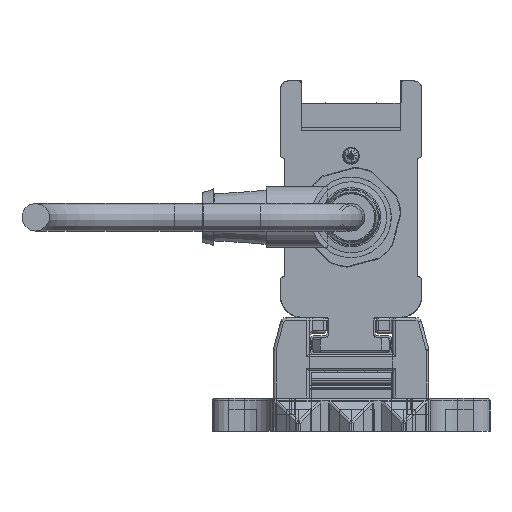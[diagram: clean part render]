
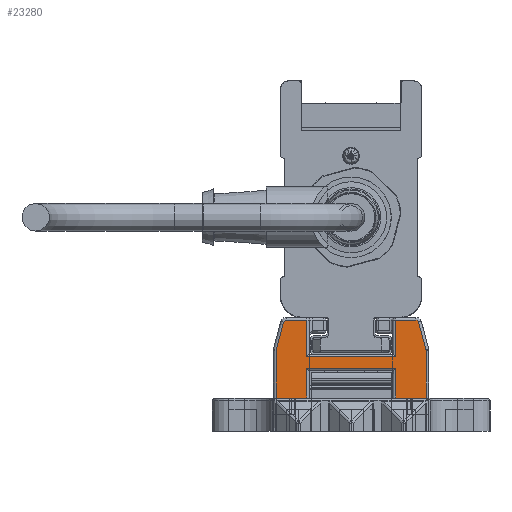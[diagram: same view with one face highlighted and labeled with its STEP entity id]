
A CAD part, left-side view. The second image highlights one B-rep face of the part: STEP entity #23280.
In plain terms, the highlighted planar face has unit normal (-1, 0, 0).
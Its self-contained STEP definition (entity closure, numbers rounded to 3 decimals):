
#23280=ADVANCED_FACE('', (#23290), #23300, .T.);
#141290=AXIS2_PLACEMENT_3D('Ax2Pl3d', #141300, #141310, #141320);
#141530=AXIS2_PLACEMENT_3D('Ax2Pl3d', #141540, #141550, #141560);
#146410=AXIS2_PLACEMENT_3D('Ax2Pl3d', #146420, #146430, #146440);
#151490=AXIS2_PLACEMENT_3D('Ax2Pl3d', #151500, #151510, #151520);
#161170=AXIS2_PLACEMENT_3D('Ax2Pl3d', #161180, #161190, #161200);
#583560=CARTESIAN_POINT('', (-747.669,-3766.345,
331.37));
#141300=CARTESIAN_POINT('HicPkt', (-747.669,-3765.379,
331.111));
#583570=CARTESIAN_POINT('', (-747.669,-3766.379,
331.111));
#583580=CARTESIAN_POINT('', (-747.669,-3765.037,
336.255));
#583600=CARTESIAN_POINT('', (-747.669,-3765.037,
336.255));
#583630=CARTESIAN_POINT('', (-747.669,-3764.554,
336.625));
#141540=CARTESIAN_POINT('HicPkt', (-747.669,-3764.554,
336.125));
#583850=CARTESIAN_POINT('', (-747.669,-3766.379,
322.625));
#583860=CARTESIAN_POINT('', (-747.669,-3760.881,
322.625));
#583870=CARTESIAN_POINT('', (-747.669,-3760.881,
322.625));
#583950=CARTESIAN_POINT('', (-747.669,-3744.881,
322.625));
#583960=CARTESIAN_POINT('', (-747.669,-3739.383,
322.625));
#583970=CARTESIAN_POINT('', (-747.669,-3739.383,
322.625));
#146420=CARTESIAN_POINT('HicPkt', (-747.669,-3741.209,
336.125));
#586440=CARTESIAN_POINT('', (-747.669,-3740.726,
336.255));
#586450=CARTESIAN_POINT('', (-747.669,-3741.209,
336.625));
#586460=CARTESIAN_POINT('', (-747.669,-3760.881,
330.025));
#586470=CARTESIAN_POINT('', (-747.669,-3744.881,
330.025));
#586480=CARTESIAN_POINT('', (-747.669,-3760.881,
330.025));
#586640=CARTESIAN_POINT('', (-747.669,-3760.881,
328.005));
#586650=CARTESIAN_POINT('', (-747.669,-3744.881,
328.005));
#586660=CARTESIAN_POINT('', (-747.669,-3744.881,
328.005));
#586670=CARTESIAN_POINT('', (-747.669,-3760.881,
328.005));
#586690=CARTESIAN_POINT('', (-747.669,-3744.881,
322.625));
#586700=CARTESIAN_POINT('', (-747.669,-3744.881,
330.025));
#586710=CARTESIAN_POINT('', (-747.669,-3744.881,
336.625));
#587560=CARTESIAN_POINT('', (-747.669,-3744.881,
336.625));
#587570=CARTESIAN_POINT('', (-747.669,-3740.726,
336.255));
#587580=CARTESIAN_POINT('', (-747.669,-3739.417,
331.37));
#587770=CARTESIAN_POINT('', (-747.669,-3739.383,
331.111));
#587780=CARTESIAN_POINT('', (-747.669,-3739.383,
331.111));
#151500=CARTESIAN_POINT('HicPkt', (-747.669,-3740.383,
331.111));
#588590=CARTESIAN_POINT('', (-747.669,-3766.379,
331.111));
#161180=CARTESIAN_POINT('HicPkt', (-747.669,-3764.554,
336.625));
#590390=CARTESIAN_POINT('', (-747.669,-3760.881,
336.625));
#590400=CARTESIAN_POINT('', (-747.669,-3760.881,
336.625));
#590410=CARTESIAN_POINT('', (-747.669,-3760.881,
336.625));
#675070=CIRCLE('Circle', #141290, 1.);
#675110=CIRCLE('Circle', #141530, 0.5);
#675690=CIRCLE('Circle', #146410, 0.5);
#676220=CIRCLE('Circle', #151490, 1.);
#141310=DIRECTION('Axis', (-1.,0.,
0.));
#141320=DIRECTION('RefDirection', (0.,
0.,-1.));
#942570=DIRECTION('', (0.,0.259,
0.966));
#141550=DIRECTION('Axis', (-1.,0.,
0.));
#141560=DIRECTION('RefDirection', (0.,
0.,-1.));
#942680=DIRECTION('', (0.,1.,0.));
#942720=DIRECTION('', (0.,1.,0.));
#146430=DIRECTION('Axis', (1.,0.,
0.));
#146440=DIRECTION('RefDirection', (0.,
0.,-1.));
#943910=DIRECTION('', (0.,-1.,0.));
#944010=DIRECTION('', (0.,1.,0.));
#944020=DIRECTION('', (0.,0.,1.));
#944040=DIRECTION('', (0.,0.,-1.));
#944050=DIRECTION('', (0.,0.,-1.));
#944480=DIRECTION('', (0.,-1.,0.));
#944490=DIRECTION('', (0.,-0.259,0.966));
#944580=DIRECTION('', (0.,0.,1.));
#151510=DIRECTION('Axis', (1.,0.,
0.));
#151520=DIRECTION('RefDirection', (0.,
0.,-1.));
#944950=DIRECTION('', (0.,0.,1.));
#161190=DIRECTION('Axis', (-1.,0.,
0.));
#161200=DIRECTION('RefDirection', (0.,
0.,-1.));
#945790=DIRECTION('', (0.,1.,0.));
#945800=DIRECTION('', (0.,0.,1.));
#1009400=EDGE_CURVE('', #1009410, #1009390, #675070, .T.);
#1009460=EDGE_CURVE('', #1009390, #1009440, #1009470, .T.);
#1009530=EDGE_CURVE('', #1009440, #1009520, #675110, .T.);
#1009980=EDGE_CURVE('', #1009970, #1009990, #1010000, .T.);
#1010140=EDGE_CURVE('', #1010130, #1010150, #1010160, .T.);
#1014500=EDGE_CURVE('', #1014510, #1014520, #675690, .T.);
#1014550=EDGE_CURVE('', #1014560, #1014570, #1014580, .T.);
#1014920=EDGE_CURVE('', #1014900, #1014930, #1014940, .T.);
#1014970=EDGE_CURVE('', #1009990, #1014900, #1014980, .T.);
#1015010=EDGE_CURVE('', #1014930, #1010130, #1015020, .T.);
#1015030=EDGE_CURVE('', #1015040, #1014560, #1015050, .T.);
#1016870=EDGE_CURVE('', #1014520, #1015040, #1016880, .T.);
#1016940=EDGE_CURVE('', #1016950, #1014510, #1016960, .T.);
#1017380=EDGE_CURVE('', #1010150, #1017390, #1017400, .T.);
#1017420=EDGE_CURVE('', #1017390, #1016950, #676220, .T.);
#1019130=EDGE_CURVE('', #1009970, #1009410, #1019140, .T.);
#1022940=EDGE_CURVE('', #1009520, #1022950, #1022960, .T.);
#1022970=EDGE_CURVE('', #1014570, #1022950, #1022980, .T.);
#1216860=EDGE_LOOP('Edge_loop', (#1216870,#1216880,#1216890,#1216900,
#1216910,#1216920,#1216930,#1216940,#1216950,#1216960,#1216970,
#1216980,#1216990,#1217000,#1217010,#1217020,#1217030,#1217040));
#23290=FACE_OUTER_BOUND('Face_outer_bound', #1216860, .T.);
#1009470=LINE('Line', #583600, #1391440);
#1010000=LINE('Line', #583860, #1391550);
#1010160=LINE('Line', #583960, #1391590);
#1014580=LINE('Line', #586460, #1392780);
#1014940=LINE('Line', #586650, #1392880);
#1014980=LINE('Line', #586670, #1392890);
#1015020=LINE('Line', #586690, #1392910);
#1015050=LINE('Line', #586700, #1392920);
#1016880=LINE('Line', #587560, #1393350);
#1016960=LINE('Line', #587570, #1393360);
#1017400=LINE('Line', #587770, #1393450);
#1019140=LINE('Line', #588590, #1393820);
#1022960=LINE('Line', #590390, #1394660);
#1022980=LINE('Line', #590410, #1394670);
#1216870=ORIENTED_EDGE('', *, *, #1022940, .T.);
#1216880=ORIENTED_EDGE('', *, *, #1022970, .F.);
#1216890=ORIENTED_EDGE('', *, *, #1014550, .F.);
#1216900=ORIENTED_EDGE('', *, *, #1015030, .F.);
#1216910=ORIENTED_EDGE('', *, *, #1016870, .F.);
#1216920=ORIENTED_EDGE('', *, *, #1014500, .F.);
#1216930=ORIENTED_EDGE('', *, *, #1016940, .F.);
#1216940=ORIENTED_EDGE('', *, *, #1017420, .F.);
#1216950=ORIENTED_EDGE('', *, *, #1017380, .F.);
#1216960=ORIENTED_EDGE('', *, *, #1010140, .F.);
#1216970=ORIENTED_EDGE('', *, *, #1015010, .F.);
#1216980=ORIENTED_EDGE('', *, *, #1014920, .F.);
#1216990=ORIENTED_EDGE('', *, *, #1014970, .F.);
#1217000=ORIENTED_EDGE('', *, *, #1009980, .F.);
#1217010=ORIENTED_EDGE('', *, *, #1019130, .T.);
#1217020=ORIENTED_EDGE('', *, *, #1009400, .T.);
#1217030=ORIENTED_EDGE('', *, *, #1009460, .T.);
#1217040=ORIENTED_EDGE('', *, *, #1009530, .T.);
#23300=PLANE('Plane', #161170);
#1391440=VECTOR('', #942570, 5.057);
#1391550=VECTOR('', #942680, 5.498);
#1391590=VECTOR('', #942720, 5.498);
#1392780=VECTOR('', #943910, 16.);
#1392880=VECTOR('', #944010, 16.);
#1392890=VECTOR('', #944020, 5.38);
#1392910=VECTOR('', #944040, 5.38);
#1392920=VECTOR('', #944050, 6.6);
#1393350=VECTOR('', #944480, 3.672);
#1393360=VECTOR('', #944490, 5.057);
#1393450=VECTOR('', #944580, 8.486);
#1393820=VECTOR('', #944950, 8.486);
#1394660=VECTOR('', #945790, 3.672);
#1394670=VECTOR('', #945800, 6.6);
#1009390=VERTEX_POINT('', #583560);
#1009410=VERTEX_POINT('', #583570);
#1009440=VERTEX_POINT('', #583580);
#1009520=VERTEX_POINT('', #583630);
#1009970=VERTEX_POINT('', #583850);
#1009990=VERTEX_POINT('', #583870);
#1010130=VERTEX_POINT('', #583950);
#1010150=VERTEX_POINT('', #583970);
#1014510=VERTEX_POINT('', #586440);
#1014520=VERTEX_POINT('', #586450);
#1014560=VERTEX_POINT('', #586470);
#1014570=VERTEX_POINT('', #586480);
#1014900=VERTEX_POINT('', #586640);
#1014930=VERTEX_POINT('', #586660);
#1015040=VERTEX_POINT('', #586710);
#1016950=VERTEX_POINT('', #587580);
#1017390=VERTEX_POINT('', #587780);
#1022950=VERTEX_POINT('', #590400);
